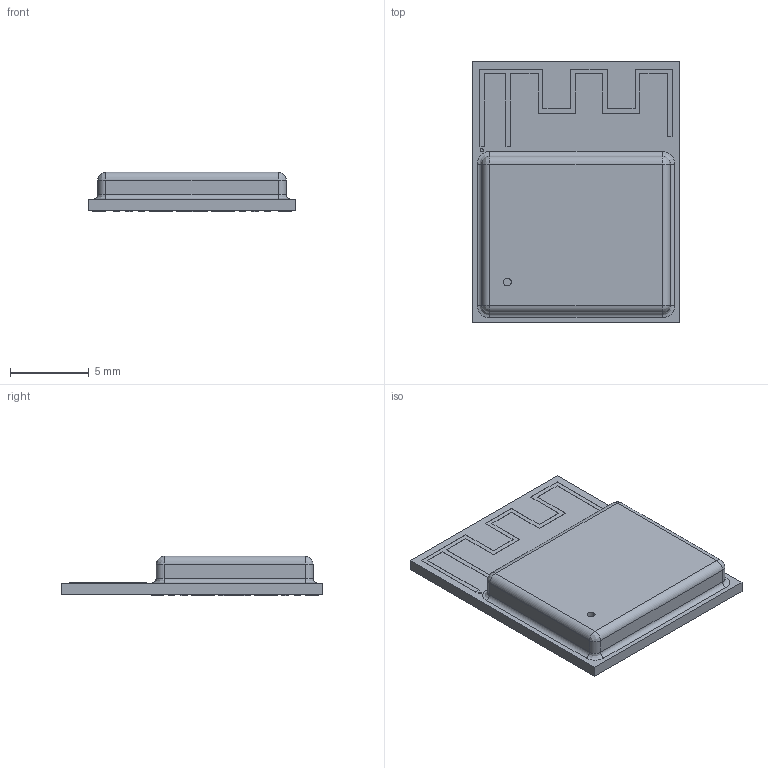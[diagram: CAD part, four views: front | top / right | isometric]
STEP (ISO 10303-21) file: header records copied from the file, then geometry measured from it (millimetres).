
FILE_DESCRIPTION (( 'STEP AP214' ), '1' );
FILE_NAME ('ESP32-C3-MINI-1-H4.stp', '2026-05-14T12:03:15', ( '' ), ( '' ), 'SwSTEP 2.0', 'SolidWorks 2017', '' );
FILE_SCHEMA (( 'AUTOMOTIVE_DESIGN' ));
Length unit declared in the file: millimetre
Products named in the file (1): ESP32-C3-MINI-1-H4
Bounding box: 13.2 x 16.6 x 2.5 mm (x, y, z)
Volume: 357.1 mm3; surface area: 559 mm2
Topology: 1 solids, 1 shells, 372 faces, 899 edges, 590 vertices
Faces by surface type: plane 348, cylinder 16, bspline 8
Entity records: 14909 total; most frequent: CARTESIAN_POINT 2108, ORIENTED_EDGE 1790, DIRECTION 1641, EDGE_CURVE 895, LINE 859, VECTOR 859, VERTEX_POINT 590, EDGE_LOOP 437
